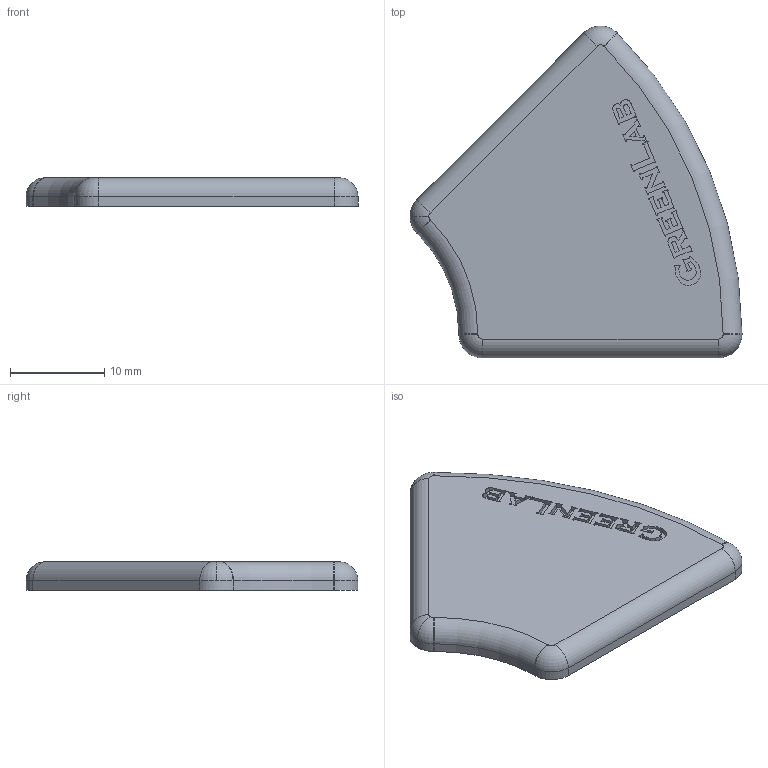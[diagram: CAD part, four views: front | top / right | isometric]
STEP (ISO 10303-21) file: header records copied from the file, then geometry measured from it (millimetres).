
FILE_DESCRIPTION (( 'STEP AP214' ), '1' );
FILE_NAME ('1.1007 Päätysuoja 30 R 45.STEP', '2023-12-04T12:40:37', ( '' ), ( '' ), 'SwSTEP 2.0', 'SolidWorks 2019', '' );
FILE_SCHEMA (( 'AUTOMOTIVE_DESIGN' ));
Length unit declared in the file: millimetre
Products named in the file (1): 1.1007 Päätysuoja 30 R 45
Bounding box: 35.18 x 35.17 x 3 mm (x, y, z)
Volume: 2462.2 mm3; surface area: 2006.7 mm2
Topology: 1 solids, 1 shells, 249 faces, 693 edges, 458 vertices
Faces by surface type: plane 145, bspline 85, cylinder 12, torus 7
Entity records: 10596 total; most frequent: CARTESIAN_POINT 4734, ORIENTED_EDGE 1386, DIRECTION 886, EDGE_CURVE 693, VECTOR 490, LINE 490, VERTEX_POINT 458, EDGE_LOOP 261
